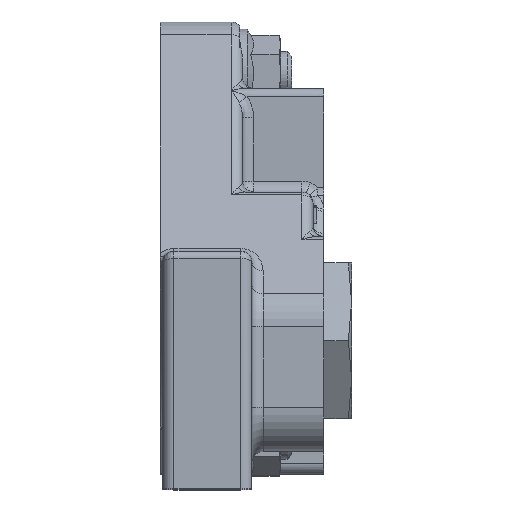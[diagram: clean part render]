
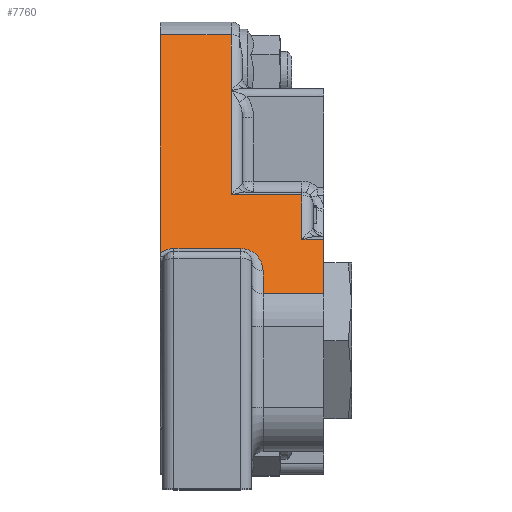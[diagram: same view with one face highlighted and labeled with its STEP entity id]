
A CAD part, top view. The second image highlights one B-rep face of the part: STEP entity #7760.
In plain terms, the highlighted planar face has unit normal (0, 0.748, 0.664).
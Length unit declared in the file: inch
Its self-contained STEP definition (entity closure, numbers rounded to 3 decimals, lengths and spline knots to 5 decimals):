
#3659=CARTESIAN_POINT('',(1.465,0.85128,-0.86706));
#3660=VERTEX_POINT('',#3659);
#3668=CARTESIAN_POINT('',(1.465,0.39292,-0.35098));
#3669=VERTEX_POINT('',#3668);
#3670=CARTESIAN_POINT('',(1.465,0.39292,-0.35098));
#3671=DIRECTION('',(0.,0.664,-0.748));
#3672=VECTOR('',#3671,0.69025);
#3673=LINE('',#3670,#3672);
#3674=EDGE_CURVE('',#3669,#3660,#3673,.T.);
#5199=CARTESIAN_POINT('',(0.09,0.73521,-0.73637));
#5200=VERTEX_POINT('',#5199);
#5208=CARTESIAN_POINT('',(0.09,2.57674,-2.80981));
#5209=VERTEX_POINT('',#5208);
#5210=CARTESIAN_POINT('',(0.09,2.57674,-2.80981));
#5211=DIRECTION('',(0.,-0.664,0.748));
#5212=VECTOR('',#5211,2.77315);
#5213=LINE('',#5210,#5212);
#5214=EDGE_CURVE('',#5209,#5200,#5213,.T.);
#5612=CARTESIAN_POINT('',(0.954,0.39292,-0.35098));
#5613=VERTEX_POINT('',#5612);
#5614=CARTESIAN_POINT('',(0.954,0.39292,-0.35098));
#5615=DIRECTION('',(1.0,0.0,0.0));
#5616=VECTOR('',#5615,0.511);
#5617=LINE('',#5614,#5616);
#5618=EDGE_CURVE('',#5613,#3669,#5617,.T.);
#5652=CARTESIAN_POINT('',(1.281,0.85128,-0.86706));
#5653=VERTEX_POINT('',#5652);
#5661=CARTESIAN_POINT('',(1.281,0.85128,-0.86706));
#5662=DIRECTION('',(1.0,0.0,0.0));
#5663=VECTOR('',#5662,0.184);
#5664=LINE('',#5661,#5663);
#5665=EDGE_CURVE('',#5653,#3660,#5664,.T.);
#6091=CARTESIAN_POINT('',(0.687,2.10702,-2.28094));
#6092=VERTEX_POINT('',#6091);
#7681=CARTESIAN_POINT('',(0.,0.56076,-0.53996));
#7682=DIRECTION('',(0.,0.748,0.664));
#7683=DIRECTION('',(1.0,0.0,0.0));
#7684=AXIS2_PLACEMENT_3D('',#7681,#7682,#7683);
#7685=PLANE('',#7684);
#7686=ORIENTED_EDGE('',*,*,#3674,.T.);
#7687=ORIENTED_EDGE('',*,*,#5665,.F.);
#7688=CARTESIAN_POINT('',(1.281,1.22628,-1.28929));
#7689=VERTEX_POINT('',#7688);
#7690=CARTESIAN_POINT('',(1.281,1.22628,-1.28929));
#7691=DIRECTION('',(0.0,-0.664,0.748));
#7692=VECTOR('',#7691,0.56471);
#7693=LINE('',#7690,#7692);
#7694=EDGE_CURVE('',#7689,#5653,#7693,.T.);
#7695=ORIENTED_EDGE('',*,*,#7694,.F.);
#7696=CARTESIAN_POINT('',(0.687,1.22628,-1.28929));
#7697=VERTEX_POINT('',#7696);
#7698=CARTESIAN_POINT('',(0.687,1.22628,-1.28929));
#7699=DIRECTION('',(1.0,0.0,0.0));
#7700=VECTOR('',#7699,0.594);
#7701=LINE('',#7698,#7700);
#7702=EDGE_CURVE('',#7697,#7689,#7701,.T.);
#7703=ORIENTED_EDGE('',*,*,#7702,.F.);
#7704=CARTESIAN_POINT('',(0.687,2.10702,-2.28094));
#7705=DIRECTION('',(0.,-0.664,0.748));
#7706=VECTOR('',#7705,1.3263);
#7707=LINE('',#7704,#7706);
#7708=EDGE_CURVE('',#6092,#7697,#7707,.T.);
#7709=ORIENTED_EDGE('',*,*,#7708,.F.);
#7710=CARTESIAN_POINT('',(0.687,2.57674,-2.80981));
#7711=VERTEX_POINT('',#7710);
#7712=CARTESIAN_POINT('',(0.687,2.57674,-2.80981));
#7713=DIRECTION('',(0.,-0.664,0.748));
#7714=VECTOR('',#7713,0.70734);
#7715=LINE('',#7712,#7714);
#7716=EDGE_CURVE('',#7711,#6092,#7715,.T.);
#7717=ORIENTED_EDGE('',*,*,#7716,.F.);
#7718=CARTESIAN_POINT('',(0.09,2.57674,-2.80981));
#7719=DIRECTION('',(1.0,0.0,0.0));
#7720=VECTOR('',#7719,0.597);
#7721=LINE('',#7718,#7720);
#7722=EDGE_CURVE('',#5209,#7711,#7721,.T.);
#7723=ORIENTED_EDGE('',*,*,#7722,.F.);
#7724=ORIENTED_EDGE('',*,*,#5214,.T.);
#7725=CARTESIAN_POINT('',(0.204,0.77372,-0.77973));
#7726=VERTEX_POINT('',#7725);
#7727=CARTESIAN_POINT('',(0.204,0.58572,-0.56806));
#7728=DIRECTION('',(0.,0.748,0.664));
#7729=DIRECTION('',(0.,0.664,-0.748));
#7730=AXIS2_PLACEMENT_3D('',#7727,#7728,#7729);
#7731=ELLIPSE('',#7730,0.28311,0.188);
#7732=EDGE_CURVE('',#7726,#5200,#7731,.T.);
#7733=ORIENTED_EDGE('',*,*,#7732,.F.);
#7734=CARTESIAN_POINT('',(0.766,0.77372,-0.77973));
#7735=VERTEX_POINT('',#7734);
#7736=CARTESIAN_POINT('',(0.766,0.77372,-0.77973));
#7737=DIRECTION('',(-1.0,0.0,0.0));
#7738=VECTOR('',#7737,0.562);
#7739=LINE('',#7736,#7738);
#7740=EDGE_CURVE('',#7735,#7726,#7739,.T.);
#7741=ORIENTED_EDGE('',*,*,#7740,.F.);
#7742=CARTESIAN_POINT('',(0.954,0.58572,-0.56806));
#7743=VERTEX_POINT('',#7742);
#7744=CARTESIAN_POINT('',(0.766,0.58572,-0.56806));
#7745=DIRECTION('',(0.,0.748,0.664));
#7746=DIRECTION('',(0.,0.664,-0.748));
#7747=AXIS2_PLACEMENT_3D('',#7744,#7745,#7746);
#7748=ELLIPSE('',#7747,0.28311,0.188);
#7749=EDGE_CURVE('',#7743,#7735,#7748,.T.);
#7750=ORIENTED_EDGE('',*,*,#7749,.F.);
#7751=CARTESIAN_POINT('',(0.954,0.39292,-0.35098));
#7752=DIRECTION('',(0.0,0.664,-0.748));
#7753=VECTOR('',#7752,0.29033);
#7754=LINE('',#7751,#7753);
#7755=EDGE_CURVE('',#5613,#7743,#7754,.T.);
#7756=ORIENTED_EDGE('',*,*,#7755,.F.);
#7757=ORIENTED_EDGE('',*,*,#5618,.T.);
#7758=EDGE_LOOP('',(#7686,#7687,#7695,#7703,#7709,#7717,#7723,#7724,#7733,#7741,#7750,#7756,#7757));
#7759=FACE_OUTER_BOUND('',#7758,.T.);
#7760=ADVANCED_FACE('',(#7759),#7685,.T.);
